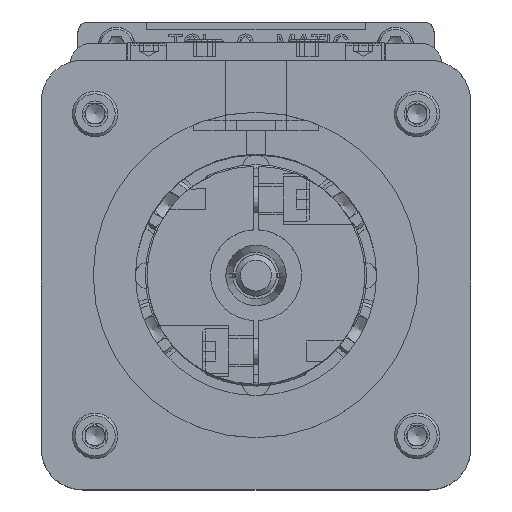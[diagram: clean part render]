
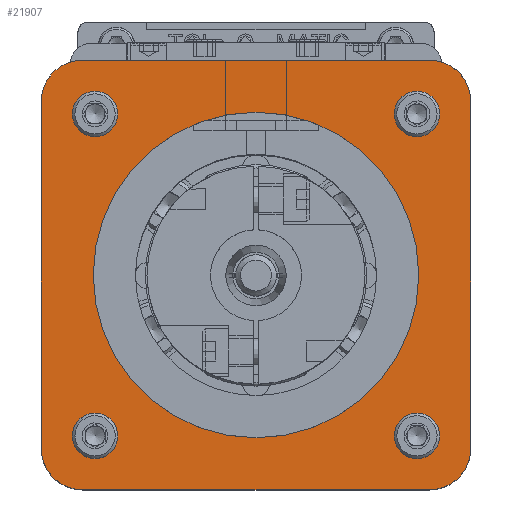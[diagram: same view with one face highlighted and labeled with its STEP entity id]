
A CAD part, top view. The second image highlights one B-rep face of the part: STEP entity #21907.
In plain terms, the highlighted planar face has unit normal (0, 0, 1).
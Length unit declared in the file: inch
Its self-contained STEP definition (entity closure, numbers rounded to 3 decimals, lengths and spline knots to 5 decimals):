
#422 = AXIS2_PLACEMENT_3D ( 'NONE', #11712, #24222, #8371 ) ;
#1188 = DIRECTION ( 'NONE',  ( 0., 0., 1. ) ) ;
#1293 = VERTEX_POINT ( 'NONE', #33228 ) ;
#1801 = ORIENTED_EDGE ( 'NONE', *, *, #31114, .F. ) ;
#2137 = AXIS2_PLACEMENT_3D ( 'NONE', #35144, #6611, #2889 ) ;
#2139 = FACE_BOUND ( 'NONE', #35798, .T. ) ;
#2182 = DIRECTION ( 'NONE',  ( -1., 0., 0. ) ) ;
#2861 = VERTEX_POINT ( 'NONE', #25142 ) ;
#2889 = DIRECTION ( 'NONE',  ( 1., 0., 0. ) ) ;
#3439 = CIRCLE ( 'NONE', #2137, 0.07875 ) ;
#3526 = VECTOR ( 'NONE', #37191, 39.37008 ) ;
#3861 = VERTEX_POINT ( 'NONE', #24617 ) ;
#4175 = AXIS2_PLACEMENT_3D ( 'NONE', #27660, #15179, #34719 ) ;
#4266 = ORIENTED_EDGE ( 'NONE', *, *, #21268, .T. ) ;
#4274 = ORIENTED_EDGE ( 'NONE', *, *, #17314, .F. ) ;
#4406 = DIRECTION ( 'NONE',  ( 0., -1., 0. ) ) ;
#4666 = VERTEX_POINT ( 'NONE', #8381 ) ;
#4810 = ORIENTED_EDGE ( 'NONE', *, *, #19059, .F. ) ;
#5071 = VECTOR ( 'NONE', #9392, 39.37008 ) ;
#5943 = LINE ( 'NONE', #22415, #10833 ) ;
#5991 = DIRECTION ( 'NONE',  ( -1., 0., 0. ) ) ;
#6206 = CARTESIAN_POINT ( 'NONE',  ( 1.05, -1.05, 2.8031 ) ) ;
#6611 = DIRECTION ( 'NONE',  ( 0., 0., 1. ) ) ;
#6841 = EDGE_LOOP ( 'NONE', ( #19377 ) ) ;
#7204 = VERTEX_POINT ( 'NONE', #23830 ) ;
#7425 = CARTESIAN_POINT ( 'NONE',  ( -1.05, -1.05, 2.8031 ) ) ;
#8096 = EDGE_CURVE ( 'NONE', #3861, #4666, #26213, .T. ) ;
#8371 = DIRECTION ( 'NONE',  ( 1., 0., 0. ) ) ;
#8381 = CARTESIAN_POINT ( 'NONE',  ( -1.3, 1.05, 2.8031 ) ) ;
#8795 = AXIS2_PLACEMENT_3D ( 'NONE', #20847, #21254, #30630 ) ;
#9392 = DIRECTION ( 'NONE',  ( -1., 0., 0. ) ) ;
#9580 = EDGE_CURVE ( 'NONE', #33165, #33165, #32728, .T. ) ;
#9637 = CARTESIAN_POINT ( 'NONE',  ( 0., 0., 2.8031 ) ) ;
#9864 = ORIENTED_EDGE ( 'NONE', *, *, #13903, .T. ) ;
#9949 = EDGE_CURVE ( 'NONE', #4666, #1293, #20242, .T. ) ;
#10612 = EDGE_LOOP ( 'NONE', ( #4810 ) ) ;
#10833 = VECTOR ( 'NONE', #16185, 39.37008 ) ;
#10942 = EDGE_LOOP ( 'NONE', ( #4274 ) ) ;
#11712 = CARTESIAN_POINT ( 'NONE',  ( -1.71016, -1.625, 2.8031 ) ) ;
#11939 = DIRECTION ( 'NONE',  ( 0., 0., 1. ) ) ;
#12329 = EDGE_LOOP ( 'NONE', ( #1801 ) ) ;
#12440 = EDGE_CURVE ( 'NONE', #17527, #26820, #24128, .T. ) ;
#12546 = CARTESIAN_POINT ( 'NONE',  ( -1.05311, -0.97436, 2.8031 ) ) ;
#13096 = EDGE_CURVE ( 'NONE', #20475, #20475, #38026, .T. ) ;
#13429 = AXIS2_PLACEMENT_3D ( 'NONE', #7425, #1188, #19935 ) ;
#13903 = EDGE_CURVE ( 'NONE', #30069, #7204, #24106, .T. ) ;
#14104 = EDGE_CURVE ( 'NONE', #27845, #17527, #5943, .T. ) ;
#15032 = CARTESIAN_POINT ( 'NONE',  ( 1.05, 1.3, 2.8031 ) ) ;
#15179 = DIRECTION ( 'NONE',  ( 0., 0., 1. ) ) ;
#15449 = AXIS2_PLACEMENT_3D ( 'NONE', #21325, #31112, #2182 ) ;
#16185 = DIRECTION ( 'NONE',  ( 0., 1., 0. ) ) ;
#16472 = LINE ( 'NONE', #31468, #5071 ) ;
#16672 = CARTESIAN_POINT ( 'NONE',  ( 1.3, 1.05, 2.8031 ) ) ;
#17314 = EDGE_CURVE ( 'NONE', #18383, #18383, #31390, .T. ) ;
#17527 = VERTEX_POINT ( 'NONE', #16672 ) ;
#17959 = FACE_BOUND ( 'NONE', #12329, .T. ) ;
#18383 = VERTEX_POINT ( 'NONE', #12546 ) ;
#18624 = ORIENTED_EDGE ( 'NONE', *, *, #31145, .T. ) ;
#19059 = EDGE_CURVE ( 'NONE', #28151, #28151, #39077, .T. ) ;
#19377 = ORIENTED_EDGE ( 'NONE', *, *, #9580, .F. ) ;
#19613 = EDGE_CURVE ( 'NONE', #26820, #3861, #16472, .T. ) ;
#19935 = DIRECTION ( 'NONE',  ( 1., 0., 0. ) ) ;
#20242 = LINE ( 'NONE', #32938, #33402 ) ;
#20475 = VERTEX_POINT ( 'NONE', #33378 ) ;
#20847 = CARTESIAN_POINT ( 'NONE',  ( 0.97436, -0.97436, 2.8031 ) ) ;
#21083 = FACE_BOUND ( 'NONE', #10942, .T. ) ;
#21254 = DIRECTION ( 'NONE',  ( 0., 0., 1. ) ) ;
#21268 = EDGE_CURVE ( 'NONE', #7204, #27845, #30457, .T. ) ;
#21325 = CARTESIAN_POINT ( 'NONE',  ( -0.97436, -0.97436, 2.8031 ) ) ;
#21907 = ADVANCED_FACE ( 'NONE', ( #30463, #21083, #34395, #17959, #24000, #2139 ), #27326, .T. ) ;
#22050 = DIRECTION ( 'NONE',  ( 0., 0., 1. ) ) ;
#22415 = CARTESIAN_POINT ( 'NONE',  ( 1.3, 1.05, 2.8031 ) ) ;
#22456 = CARTESIAN_POINT ( 'NONE',  ( -1.05, -1.3, 2.8031 ) ) ;
#22501 = CARTESIAN_POINT ( 'NONE',  ( 1.3, -1.05, 2.8031 ) ) ;
#23109 = ORIENTED_EDGE ( 'NONE', *, *, #13096, .F. ) ;
#23776 = AXIS2_PLACEMENT_3D ( 'NONE', #34018, #11939, #37339 ) ;
#23830 = CARTESIAN_POINT ( 'NONE',  ( 1.05, -1.3, 2.8031 ) ) ;
#23916 = DIRECTION ( 'NONE',  ( -1., 0., 0. ) ) ;
#24000 = FACE_OUTER_BOUND ( 'NONE', #31167, .T. ) ;
#24106 = LINE ( 'NONE', #40755, #3526 ) ;
#24128 = CIRCLE ( 'NONE', #4175, 0.25 ) ;
#24222 = DIRECTION ( 'NONE',  ( 0., 0., 1. ) ) ;
#24617 = CARTESIAN_POINT ( 'NONE',  ( -1.05, 1.3, 2.8031 ) ) ;
#25142 = CARTESIAN_POINT ( 'NONE',  ( 1.05311, 0.97436, 2.8031 ) ) ;
#25413 = CIRCLE ( 'NONE', #13429, 0.25 ) ;
#26213 = CIRCLE ( 'NONE', #34858, 0.25 ) ;
#26820 = VERTEX_POINT ( 'NONE', #15032 ) ;
#27054 = CARTESIAN_POINT ( 'NONE',  ( -1.05, 1.05, 2.8031 ) ) ;
#27326 = PLANE ( 'NONE',  #422 ) ;
#27660 = CARTESIAN_POINT ( 'NONE',  ( 1.05, 1.05, 2.8031 ) ) ;
#27845 = VERTEX_POINT ( 'NONE', #22501 ) ;
#28151 = VERTEX_POINT ( 'NONE', #40870 ) ;
#28371 = DIRECTION ( 'NONE',  ( 1., 0., 0. ) ) ;
#30069 = VERTEX_POINT ( 'NONE', #22456 ) ;
#30457 = CIRCLE ( 'NONE', #37065, 0.25 ) ;
#30463 = FACE_BOUND ( 'NONE', #10612, .T. ) ;
#30630 = DIRECTION ( 'NONE',  ( 0., -1., 0. ) ) ;
#30830 = ORIENTED_EDGE ( 'NONE', *, *, #12440, .T. ) ;
#30882 = CARTESIAN_POINT ( 'NONE',  ( 0.97436, -1.05311, 2.8031 ) ) ;
#31112 = DIRECTION ( 'NONE',  ( 0., 0., 1. ) ) ;
#31114 = EDGE_CURVE ( 'NONE', #2861, #2861, #3439, .T. ) ;
#31145 = EDGE_CURVE ( 'NONE', #1293, #30069, #25413, .T. ) ;
#31167 = EDGE_LOOP ( 'NONE', ( #36014, #30830, #36914, #33630, #37712, #18624, #9864, #4266 ) ) ;
#31390 = CIRCLE ( 'NONE', #15449, 0.07875 ) ;
#31468 = CARTESIAN_POINT ( 'NONE',  ( -1.05, 1.3, 2.8031 ) ) ;
#31711 = DIRECTION ( 'NONE',  ( 0., 0., 1. ) ) ;
#32728 = CIRCLE ( 'NONE', #8795, 0.07875 ) ;
#32938 = CARTESIAN_POINT ( 'NONE',  ( -1.3, 1.05, 2.8031 ) ) ;
#33165 = VERTEX_POINT ( 'NONE', #30882 ) ;
#33228 = CARTESIAN_POINT ( 'NONE',  ( -1.3, -1.05, 2.8031 ) ) ;
#33378 = CARTESIAN_POINT ( 'NONE',  ( 0.98525, 0., 2.8031 ) ) ;
#33402 = VECTOR ( 'NONE', #4406, 39.37008 ) ;
#33630 = ORIENTED_EDGE ( 'NONE', *, *, #8096, .T. ) ;
#34018 = CARTESIAN_POINT ( 'NONE',  ( -0.97436, 0.97436, 2.8031 ) ) ;
#34395 = FACE_BOUND ( 'NONE', #6841, .T. ) ;
#34719 = DIRECTION ( 'NONE',  ( 1., 0., 0. ) ) ;
#34858 = AXIS2_PLACEMENT_3D ( 'NONE', #27054, #39749, #23916 ) ;
#35144 = CARTESIAN_POINT ( 'NONE',  ( 0.97436, 0.97436, 2.8031 ) ) ;
#35798 = EDGE_LOOP ( 'NONE', ( #23109 ) ) ;
#36014 = ORIENTED_EDGE ( 'NONE', *, *, #14104, .T. ) ;
#36671 = AXIS2_PLACEMENT_3D ( 'NONE', #9637, #31711, #28371 ) ;
#36914 = ORIENTED_EDGE ( 'NONE', *, *, #19613, .T. ) ;
#37065 = AXIS2_PLACEMENT_3D ( 'NONE', #6206, #22050, #5991 ) ;
#37191 = DIRECTION ( 'NONE',  ( 1., 0., 0. ) ) ;
#37339 = DIRECTION ( 'NONE',  ( 0., 1., 0. ) ) ;
#37712 = ORIENTED_EDGE ( 'NONE', *, *, #9949, .T. ) ;
#38026 = CIRCLE ( 'NONE', #36671, 0.98525 ) ;
#39077 = CIRCLE ( 'NONE', #23776, 0.07875 ) ;
#39749 = DIRECTION ( 'NONE',  ( 0., 0., 1. ) ) ;
#40755 = CARTESIAN_POINT ( 'NONE',  ( -1.05, -1.3, 2.8031 ) ) ;
#40870 = CARTESIAN_POINT ( 'NONE',  ( -0.97436, 1.05311, 2.8031 ) ) ;
